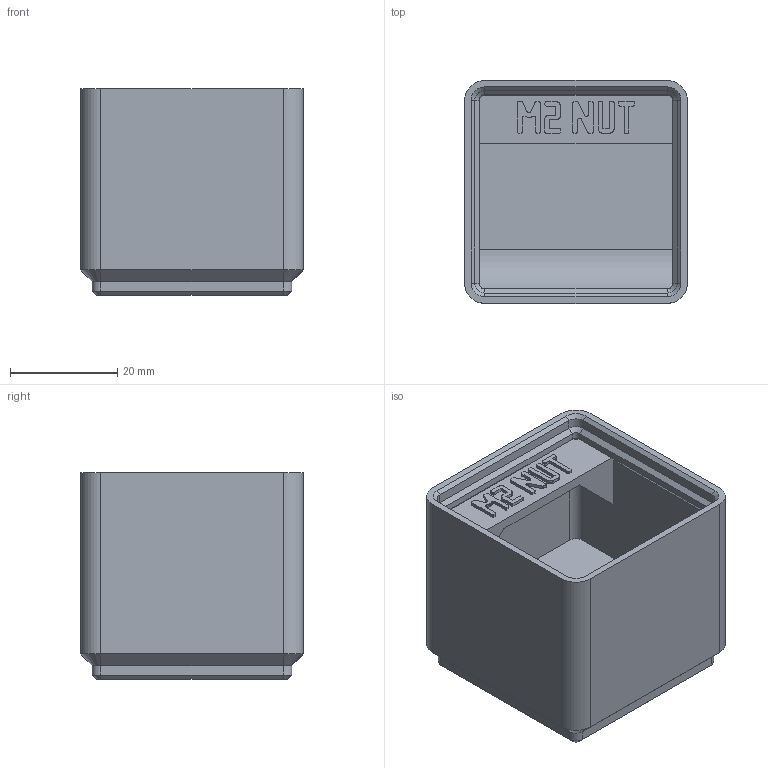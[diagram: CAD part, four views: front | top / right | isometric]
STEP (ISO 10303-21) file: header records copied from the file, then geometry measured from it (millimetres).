
FILE_DESCRIPTION(('Open CASCADE Model'),'2;1');
FILE_NAME('Open CASCADE Shape Model','2026-11-03T10:35:53',('Author'),( 'Open CASCADE'),'Open CASCADE STEP processor 8.0','build123d', 'Unknown');
FILE_SCHEMA(('AUTOMOTIVE_DESIGN { 1 0 10303 214 1 1 1 1 }'));
Length unit declared in the file: millimetre
Products named in the file (1): COMPOUND
Bounding box: 41.5 x 41.5 x 38.55 mm (x, y, z)
Volume: 27574.7 mm3; surface area: 13868.9 mm2
Topology: 1 solids, 1 shells, 549 faces, 1563 edges, 1022 vertices
Faces by surface type: plane 508, cylinder 21, cone 20
Entity records: 36941 total; most frequent: CARTESIAN_POINT 7713, DIRECTION 4698, LINE 3483, VECTOR 3483, ORIENTED_EDGE 3126, PCURVE 3126, DEFINITIONAL_REPRESENTATION 3126, EDGE_CURVE 1563
